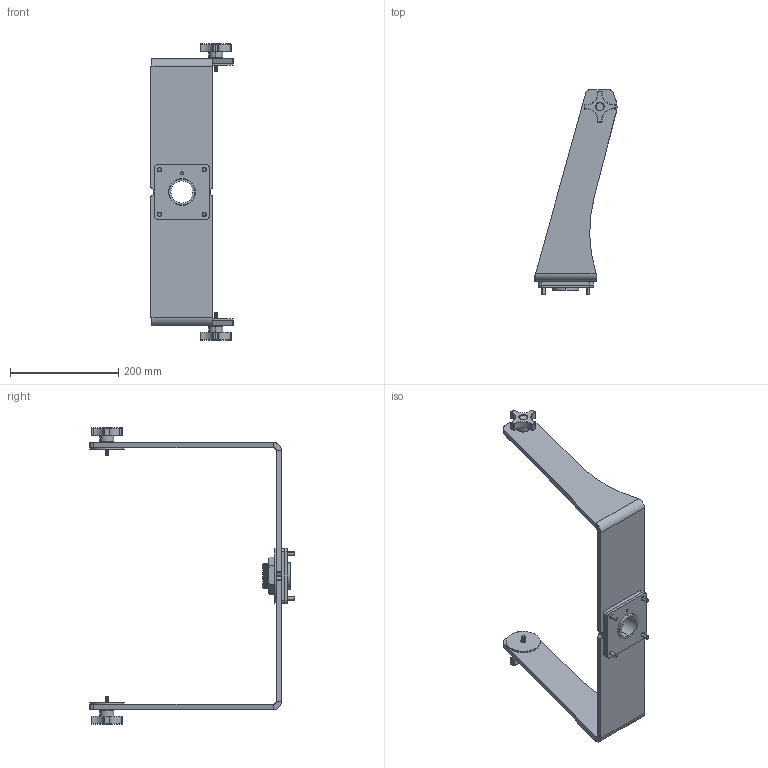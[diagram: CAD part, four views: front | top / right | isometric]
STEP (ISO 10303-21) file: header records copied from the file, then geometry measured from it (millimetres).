
FILE_DESCRIPTION (( 'STEP AP214' ), '1' );
FILE_NAME ('Pedestal and Benchtop Yoke for 19 inch Universal Mount Monitor, YB19.STEP', '2017-07-18T14:26:22', ( '' ), ( '' ), 'SwSTEP 2.0', 'SolidWorks 2017', '' );
FILE_SCHEMA (( 'AUTOMOTIVE_DESIGN' ));
Length unit declared in the file: inch
Products named in the file (12): Bearing Plate, 10078; Knob, 30053; Rubber Washer, 10177; All Yoke Configurations, YBxx_YK19; Bushing, 30500; Nut, 30060; Washer, 10143; Screw, 30078_CR-FHMS 0.25-20x0.875x0.875-N; Bench Plate, 10105; 9157K370_STD-WALL 304-304L SS THRD ONE END PIPE NIPPLE_9157K37; 10105; Pedestal and Benchtop Yoke for 19 inch Universal Mount Monitor, YB19
Assembly tree (17 placements, depth 3):
  Pedestal and Benchtop Yoke for 19 inch Universal Mount Monitor, YB19
    All Yoke Configurations, YBxx_YK19
    Bearing Plate, 10078
    Bench Plate, 10105
      10105
      9157K370_STD-WALL 304-304L SS THRD ONE END PIPE NIPPLE_9157K37
    Screw, 30078_CR-FHMS 0.25-20x0.875x0.875-N  x4
    Washer, 10143
    Nut, 30060
    Bushing, 30500  x2
    Rubber Washer, 10177  x2
    Knob, 30053  x2
Bounding box: 151.52 x 377.9 x 546.76 mm (x, y, z)
Volume: 1195977.1 mm3; surface area: 341410.1 mm2
Topology: 16 solids, 16 shells, 808 faces, 1799 edges, 1020 vertices
Faces by surface type: cylinder 344, cone 239, plane 128, torus 48, sphere 40, bspline 9
Entity records: 24007 total; most frequent: CARTESIAN_POINT 12628, DIRECTION 2319, ORIENTED_EDGE 2230, EDGE_CURVE 1115, AXIS2_PLACEMENT_3D 932, VERTEX_POINT 653, EDGE_LOOP 532, ADVANCED_FACE 488
